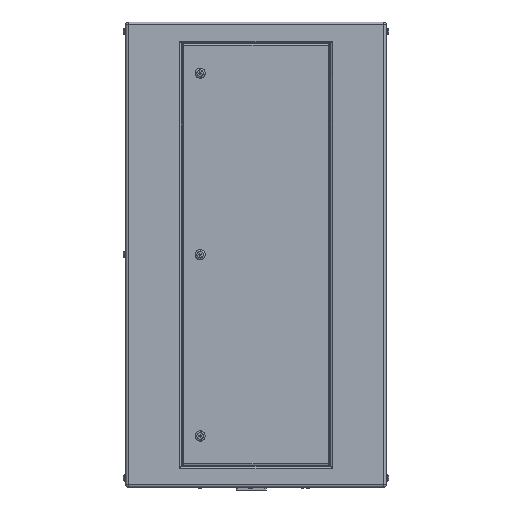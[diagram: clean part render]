
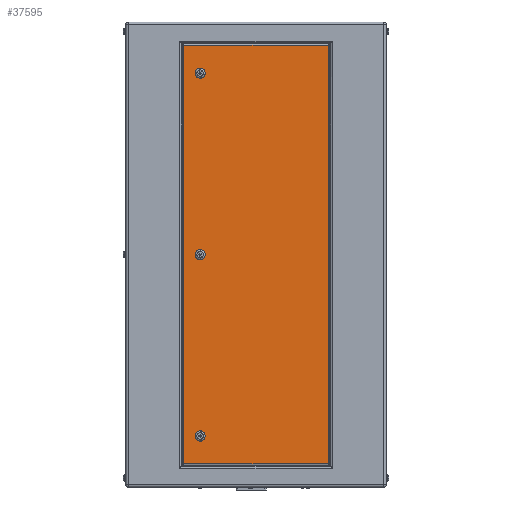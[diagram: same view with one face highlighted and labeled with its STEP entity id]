
A CAD part, left-side view. The second image highlights one B-rep face of the part: STEP entity #37595.
In plain terms, the highlighted planar face has unit normal (-1, 0, 0).
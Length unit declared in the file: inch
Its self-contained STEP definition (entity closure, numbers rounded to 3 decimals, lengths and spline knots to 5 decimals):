
#184 = DIRECTION ( 'NONE',  ( 1., 0., 0. ) ) ;
#280 = VECTOR ( 'NONE', #12858, 39.37008 ) ;
#872 = AXIS2_PLACEMENT_3D ( 'NONE', #15660, #16062, #30470 ) ;
#877 = LINE ( 'NONE', #1072, #280 ) ;
#958 = CARTESIAN_POINT ( 'NONE',  ( -18.5, 7.74, 22.49 ) ) ;
#1072 = CARTESIAN_POINT ( 'NONE',  ( -18.5, 14., 22.49 ) ) ;
#1100 = CIRCLE ( 'NONE', #2368, 0.55 ) ;
#1276 = ORIENTED_EDGE ( 'NONE', *, *, #21108, .T. ) ;
#1525 = DIRECTION ( 'NONE',  ( 0., 0., -1. ) ) ;
#2298 = EDGE_LOOP ( 'NONE', ( #29037, #7791 ) ) ;
#2368 = AXIS2_PLACEMENT_3D ( 'NONE', #16273, #34421, #1525 ) ;
#3104 = CIRCLE ( 'NONE', #19519, 0.55 ) ;
#3961 = ORIENTED_EDGE ( 'NONE', *, *, #8725, .T. ) ;
#4109 = ORIENTED_EDGE ( 'NONE', *, *, #28202, .T. ) ;
#4334 = VERTEX_POINT ( 'NONE', #958 ) ;
#4609 = DIRECTION ( 'NONE',  ( 0., -1., 0. ) ) ;
#5382 = EDGE_LOOP ( 'NONE', ( #4109, #1276 ) ) ;
#5755 = CARTESIAN_POINT ( 'NONE',  ( -18.5, 6., 0. ) ) ;
#6398 = VECTOR ( 'NONE', #4609, 39.37008 ) ;
#6531 = LINE ( 'NONE', #24823, #15783 ) ;
#6624 = AXIS2_PLACEMENT_3D ( 'NONE', #25843, #7920, #25448 ) ;
#6897 = VERTEX_POINT ( 'NONE', #15839 ) ;
#7791 = ORIENTED_EDGE ( 'NONE', *, *, #34947, .T. ) ;
#7920 = DIRECTION ( 'NONE',  ( 1., 0., 0. ) ) ;
#7921 = CARTESIAN_POINT ( 'NONE',  ( -18.5, -7.74, -25. ) ) ;
#8648 = VERTEX_POINT ( 'NONE', #17555 ) ;
#8725 = EDGE_CURVE ( 'NONE', #4334, #6897, #6531, .T. ) ;
#12082 = CARTESIAN_POINT ( 'NONE',  ( -18.5, 6., 0.55 ) ) ;
#12858 = DIRECTION ( 'NONE',  ( 0., 1., 0. ) ) ;
#13083 = CARTESIAN_POINT ( 'NONE',  ( -18.5, 6., 19.5 ) ) ;
#13301 = FACE_BOUND ( 'NONE', #18572, .T. ) ;
#14624 = AXIS2_PLACEMENT_3D ( 'NONE', #13083, #34210, #22397 ) ;
#14763 = DIRECTION ( 'NONE',  ( 0., 0., -1. ) ) ;
#14807 = DIRECTION ( 'NONE',  ( 0., 0., -1. ) ) ;
#15026 = ORIENTED_EDGE ( 'NONE', *, *, #38147, .T. ) ;
#15145 = CARTESIAN_POINT ( 'NONE',  ( -18.5, 6., 0. ) ) ;
#15217 = EDGE_CURVE ( 'NONE', #6897, #32946, #22354, .T. ) ;
#15587 = ORIENTED_EDGE ( 'NONE', *, *, #15217, .T. ) ;
#15660 = CARTESIAN_POINT ( 'NONE',  ( -18.5, 14., -25. ) ) ;
#15783 = VECTOR ( 'NONE', #21709, 39.37008 ) ;
#15839 = CARTESIAN_POINT ( 'NONE',  ( -18.5, 7.74, -22.49 ) ) ;
#16062 = DIRECTION ( 'NONE',  ( 1., 0., 0. ) ) ;
#16148 = DIRECTION ( 'NONE',  ( 0., 0., -1. ) ) ;
#16214 = EDGE_LOOP ( 'NONE', ( #15587, #23704, #31925, #3961 ) ) ;
#16273 = CARTESIAN_POINT ( 'NONE',  ( -18.5, 6., -19.5 ) ) ;
#16937 = DIRECTION ( 'NONE',  ( 1., 0., 0. ) ) ;
#17063 = CARTESIAN_POINT ( 'NONE',  ( -18.5, 6., -20.05 ) ) ;
#17555 = CARTESIAN_POINT ( 'NONE',  ( -18.5, 6., -18.95 ) ) ;
#18572 = EDGE_LOOP ( 'NONE', ( #15026, #36885 ) ) ;
#18606 = VERTEX_POINT ( 'NONE', #17063 ) ;
#18633 = VERTEX_POINT ( 'NONE', #12082 ) ;
#18964 = VECTOR ( 'NONE', #29350, 39.37008 ) ;
#19055 = FACE_BOUND ( 'NONE', #2298, .T. ) ;
#19208 = VERTEX_POINT ( 'NONE', #21289 ) ;
#19519 = AXIS2_PLACEMENT_3D ( 'NONE', #15145, #184, #14763 ) ;
#19628 = VERTEX_POINT ( 'NONE', #29233 ) ;
#20921 = VERTEX_POINT ( 'NONE', #24001 ) ;
#21077 = AXIS2_PLACEMENT_3D ( 'NONE', #28965, #16937, #16148 ) ;
#21108 = EDGE_CURVE ( 'NONE', #8648, #18606, #1100, .T. ) ;
#21289 = CARTESIAN_POINT ( 'NONE',  ( -18.5, 6., 20.05 ) ) ;
#21709 = DIRECTION ( 'NONE',  ( 0., 0., -1. ) ) ;
#21732 = AXIS2_PLACEMENT_3D ( 'NONE', #5755, #29793, #14807 ) ;
#22354 = LINE ( 'NONE', #31604, #6398 ) ;
#22397 = DIRECTION ( 'NONE',  ( 0., 0., -1. ) ) ;
#23445 = EDGE_CURVE ( 'NONE', #18633, #38103, #3104, .T. ) ;
#23490 = CARTESIAN_POINT ( 'NONE',  ( -18.5, 6., -0.55 ) ) ;
#23704 = ORIENTED_EDGE ( 'NONE', *, *, #24193, .T. ) ;
#24001 = CARTESIAN_POINT ( 'NONE',  ( -18.5, -7.74, 22.49 ) ) ;
#24193 = EDGE_CURVE ( 'NONE', #32946, #20921, #32128, .T. ) ;
#24823 = CARTESIAN_POINT ( 'NONE',  ( -18.5, 7.74, -25. ) ) ;
#25448 = DIRECTION ( 'NONE',  ( 0., 0., -1. ) ) ;
#25843 = CARTESIAN_POINT ( 'NONE',  ( -18.5, 6., 19.5 ) ) ;
#27521 = FACE_BOUND ( 'NONE', #5382, .T. ) ;
#27661 = CARTESIAN_POINT ( 'NONE',  ( -18.5, -7.74, -22.49 ) ) ;
#28202 = EDGE_CURVE ( 'NONE', #18606, #8648, #38052, .T. ) ;
#28283 = FACE_OUTER_BOUND ( 'NONE', #16214, .T. ) ;
#28965 = CARTESIAN_POINT ( 'NONE',  ( -18.5, 6., -19.5 ) ) ;
#29037 = ORIENTED_EDGE ( 'NONE', *, *, #32580, .T. ) ;
#29233 = CARTESIAN_POINT ( 'NONE',  ( -18.5, 6., 18.95 ) ) ;
#29350 = DIRECTION ( 'NONE',  ( 0., 0., 1. ) ) ;
#29793 = DIRECTION ( 'NONE',  ( 1., 0., 0. ) ) ;
#30470 = DIRECTION ( 'NONE',  ( 0., 0., -1. ) ) ;
#30654 = PLANE ( 'NONE',  #872 ) ;
#31604 = CARTESIAN_POINT ( 'NONE',  ( -18.5, 14., -22.49 ) ) ;
#31925 = ORIENTED_EDGE ( 'NONE', *, *, #33895, .T. ) ;
#32128 = LINE ( 'NONE', #7921, #18964 ) ;
#32580 = EDGE_CURVE ( 'NONE', #19628, #19208, #38577, .T. ) ;
#32946 = VERTEX_POINT ( 'NONE', #27661 ) ;
#33895 = EDGE_CURVE ( 'NONE', #20921, #4334, #877, .T. ) ;
#34210 = DIRECTION ( 'NONE',  ( 1., 0., 0. ) ) ;
#34421 = DIRECTION ( 'NONE',  ( 1., 0., 0. ) ) ;
#34947 = EDGE_CURVE ( 'NONE', #19208, #19628, #38679, .T. ) ;
#35558 = CIRCLE ( 'NONE', #21732, 0.55 ) ;
#36885 = ORIENTED_EDGE ( 'NONE', *, *, #23445, .T. ) ;
#37595 = ADVANCED_FACE ( 'NONE', ( #27521, #13301, #19055, #28283 ), #30654, .F. ) ;
#38052 = CIRCLE ( 'NONE', #21077, 0.55 ) ;
#38103 = VERTEX_POINT ( 'NONE', #23490 ) ;
#38147 = EDGE_CURVE ( 'NONE', #38103, #18633, #35558, .T. ) ;
#38577 = CIRCLE ( 'NONE', #14624, 0.55 ) ;
#38679 = CIRCLE ( 'NONE', #6624, 0.55 ) ;
